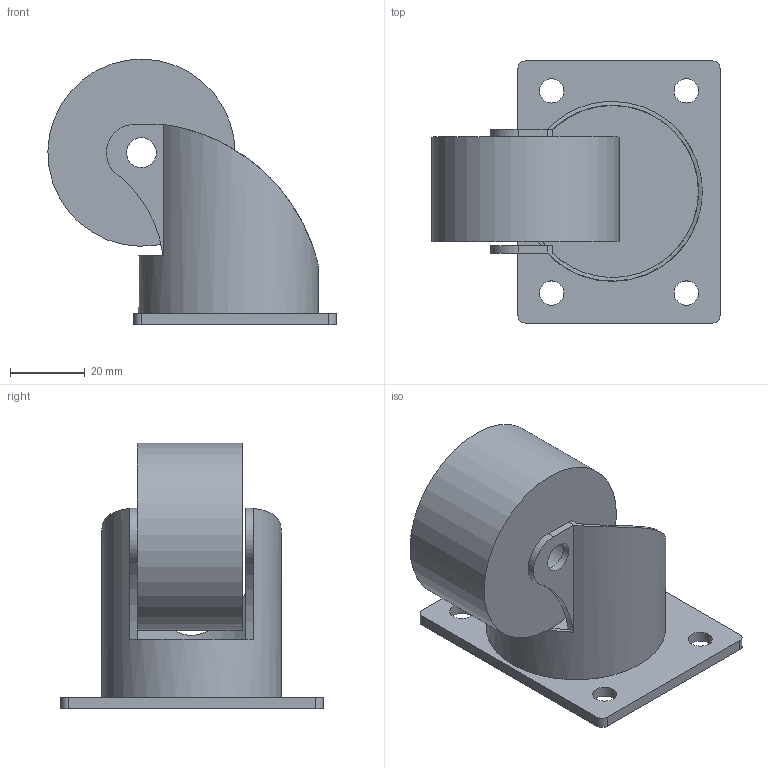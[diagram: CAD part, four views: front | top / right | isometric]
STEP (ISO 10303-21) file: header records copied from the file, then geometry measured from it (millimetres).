
FILE_DESCRIPTION((''),'2;1');
FILE_NAME('E:\catalogue and flyer\Profile catalogue 2015\Accessories- FM & wheel\foot mout & wheel stp file\ACC-JM50-HP.stp','2016-04-08T09:35:29',('h029'),(''),'Autodesk Inventor 11','Autodesk Inventor 11','');
FILE_SCHEMA(('AUTOMOTIVE_DESIGN { 1 0 10303 214 1 1 1 1 }'));
Length unit declared in the file: millimetre
Products named in the file (4): JM50; plate 50; part3 50; wheel 50
Assembly tree (3 placements, depth 2):
  JM50
    plate 50
    part3 50
    wheel 50
Bounding box: 77 x 70 x 71 mm (x, y, z)
Volume: 68380.2 mm3; surface area: 28324.5 mm2
Topology: 3 solids, 3 shells, 41 faces, 104 edges, 68 vertices
Faces by surface type: plane 22, cylinder 13, bspline 6
Full cylindrical faces by diameter (mm): 12 x1, 46 x1, 48 x1, 50 x1
Entity records: 1543 total; most frequent: CARTESIAN_POINT 491, DIRECTION 208, ORIENTED_EDGE 178, EDGE_CURVE 89, AXIS2_PLACEMENT_3D 82, EDGE_LOOP 66, VERTEX_POINT 63, VECTOR 44
